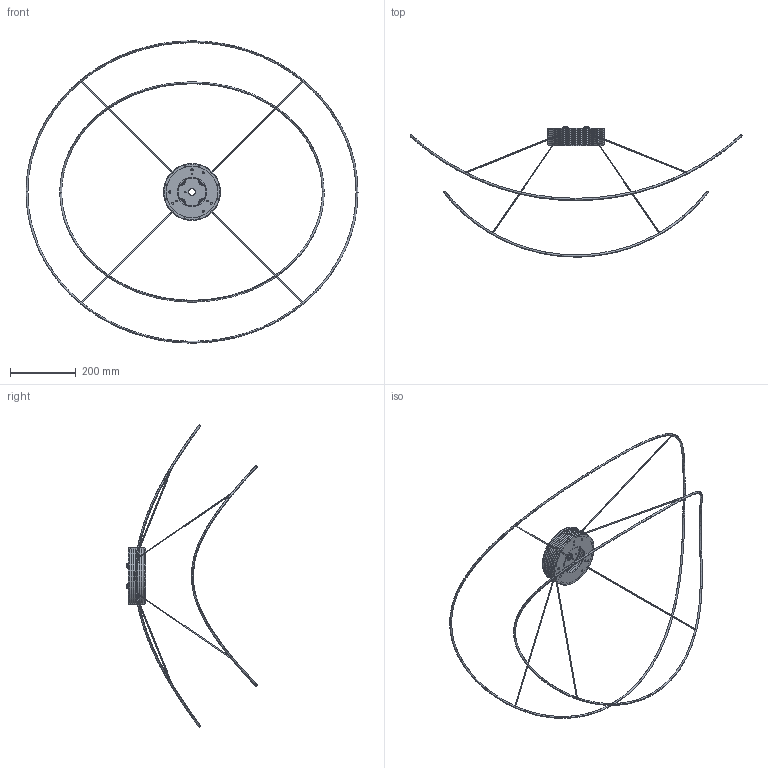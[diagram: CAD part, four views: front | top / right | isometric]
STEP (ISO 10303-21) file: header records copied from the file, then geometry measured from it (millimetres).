
FILE_DESCRIPTION (( 'STEP AP203' ), '1' );
FILE_NAME ('PLHOOPS2XXXXLED-3D.STEP', '2015-02-24T18:22:01', ( '' ), ( '' ), 'SwSTEP 2.0', 'SolidWorks 2014', '' );
FILE_SCHEMA (( 'CONFIG_CONTROL_DESIGN' ));
Length unit declared in the file: millimetre
Products named in the file (14): WSAXO018CMJB014500; WSAXO018CMFA010000; PLHOOPS-02-3D; WSAXO018CMCA014501; WSAXO018CMJC014500; WSAXO018CMCB012900; WSAXO018CMHB014500; MPLHOOPS-3D; WSAXO018CMHG010000; PLHOOPS2XXXXLED-3D; WSAXO018CMHH010000; WSAXO018CMHF010000; WSAXO018CMHE010000; WSAXO018CMHB010000
Assembly tree (25 placements, depth 4):
  PLHOOPS2XXXXLED-3D
    WSAXO018CMHB014500  x6
    WSAXO018CMJC014500
      WSAXO018CMHB010000
      WSAXO018CMHH010000
      WSAXO018CMHG010000  x4
    WSAXO018CMJB014500
      WSAXO018CMHB010000
      WSAXO018CMHF010000
      WSAXO018CMHE010000  x4
    MPLHOOPS-3D
      PLHOOPS-02-3D
        WSAXO018CMFA010000
      WSAXO018CMCA014501
      WSAXO018CMCB012900
Bounding box: 1012 x 396.51 x 920.88 mm (x, y, z)
Volume: 415164.7 mm3; surface area: 373009.7 mm2
Topology: 21 solids, 21 shells, 301 faces, 736 edges, 466 vertices
Faces by surface type: cylinder 166, torus 68, plane 31, cone 28, bspline 8
Entity records: 11228 total; most frequent: CARTESIAN_POINT 2587, DIRECTION 1660, ORIENTED_EDGE 1304, AXIS2_PLACEMENT_3D 739, EDGE_CURVE 652, CIRCLE 462, VERTEX_POINT 418, EDGE_LOOP 360
